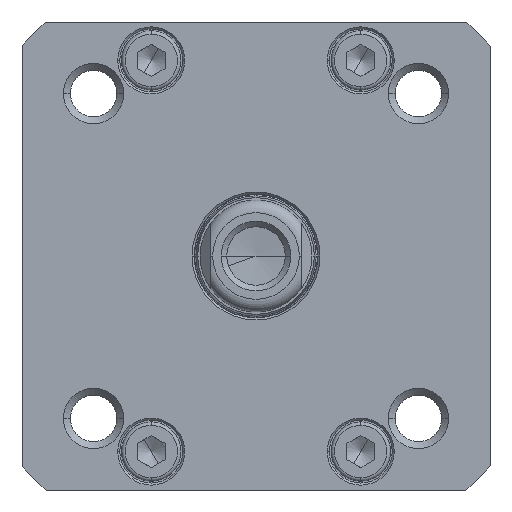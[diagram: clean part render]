
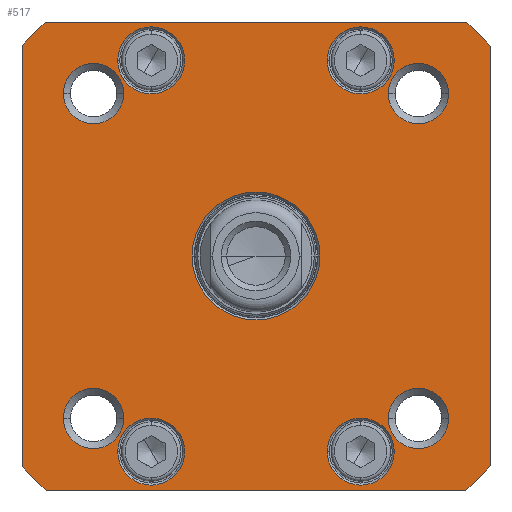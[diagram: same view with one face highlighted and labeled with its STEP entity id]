
A CAD part, front view. The second image highlights one B-rep face of the part: STEP entity #517.
In plain terms, the highlighted planar face has unit normal (0, -1, 0).
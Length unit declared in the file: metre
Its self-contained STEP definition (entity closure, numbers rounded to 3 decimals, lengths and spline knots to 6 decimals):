
#517=ADVANCED_FACE('',(#923,#924,#925,#926,#927,#928,#929,#930,#931,#932),#933,.T.);
#923=FACE_OUTER_BOUND('',#1640,.T.);
#924=FACE_BOUND('',#1641,.T.);
#925=FACE_BOUND('',#1642,.T.);
#926=FACE_BOUND('',#1643,.T.);
#927=FACE_BOUND('',#1644,.T.);
#928=FACE_BOUND('',#1645,.T.);
#929=FACE_BOUND('',#1646,.T.);
#930=FACE_BOUND('',#1647,.T.);
#931=FACE_BOUND('',#1648,.T.);
#932=FACE_BOUND('',#1649,.T.);
#933=PLANE('',#1650);
#1640=EDGE_LOOP('',(#2914,#2915,#2916,#2917,#2918,#2919,#2920,#2921));
#1641=EDGE_LOOP('',(#2922,#2923));
#1642=EDGE_LOOP('',(#2924,#2925));
#1643=EDGE_LOOP('',(#2926,#2927));
#1644=EDGE_LOOP('',(#2928,#2929));
#1645=EDGE_LOOP('',(#2930,#2931));
#1646=EDGE_LOOP('',(#2932,#2933));
#1647=EDGE_LOOP('',(#2934,#2935));
#1648=EDGE_LOOP('',(#2936,#2937));
#1649=EDGE_LOOP('',(#2938,#2939));
#1650=AXIS2_PLACEMENT_3D('',#2940,#2941,#2942);
#2914=ORIENTED_EDGE('',*,*,#5014,.F.);
#2915=ORIENTED_EDGE('',*,*,#5015,.F.);
#2916=ORIENTED_EDGE('',*,*,#5016,.F.);
#2917=ORIENTED_EDGE('',*,*,#5017,.F.);
#2918=ORIENTED_EDGE('',*,*,#5018,.F.);
#2919=ORIENTED_EDGE('',*,*,#5019,.F.);
#2920=ORIENTED_EDGE('',*,*,#5020,.F.);
#2921=ORIENTED_EDGE('',*,*,#5021,.F.);
#2922=ORIENTED_EDGE('',*,*,#5022,.F.);
#2923=ORIENTED_EDGE('',*,*,#4900,.F.);
#2924=ORIENTED_EDGE('',*,*,#5023,.F.);
#2925=ORIENTED_EDGE('',*,*,#4876,.F.);
#2926=ORIENTED_EDGE('',*,*,#5024,.F.);
#2927=ORIENTED_EDGE('',*,*,#4852,.F.);
#2928=ORIENTED_EDGE('',*,*,#5025,.F.);
#2929=ORIENTED_EDGE('',*,*,#4836,.F.);
#2930=ORIENTED_EDGE('',*,*,#5026,.F.);
#2931=ORIENTED_EDGE('',*,*,#4821,.F.);
#2932=ORIENTED_EDGE('',*,*,#5027,.F.);
#2933=ORIENTED_EDGE('',*,*,#4828,.F.);
#2934=ORIENTED_EDGE('',*,*,#5028,.F.);
#2935=ORIENTED_EDGE('',*,*,#4844,.F.);
#2936=ORIENTED_EDGE('',*,*,#5029,.F.);
#2937=ORIENTED_EDGE('',*,*,#4864,.F.);
#2938=ORIENTED_EDGE('',*,*,#5030,.F.);
#2939=ORIENTED_EDGE('',*,*,#4888,.F.);
#2940=CARTESIAN_POINT('',(0.,-0.087375,0.));
#2941=DIRECTION('',(0.0,-1.0,0.0));
#2942=DIRECTION('',(0.0,0.0,-1.0));
#4821=EDGE_CURVE('',#6065,#6067,#6068,.T.);
#4828=EDGE_CURVE('',#6078,#6080,#6081,.T.);
#4836=EDGE_CURVE('',#6092,#6094,#6095,.T.);
#4844=EDGE_CURVE('',#6106,#6108,#6109,.T.);
#4852=EDGE_CURVE('',#6120,#6122,#6123,.T.);
#4864=EDGE_CURVE('',#6140,#6142,#6143,.T.);
#4876=EDGE_CURVE('',#6160,#6162,#6163,.T.);
#4888=EDGE_CURVE('',#6180,#6182,#6183,.T.);
#4900=EDGE_CURVE('',#6200,#6202,#6203,.T.);
#5014=EDGE_CURVE('',#6415,#6416,#6417,.T.);
#5015=EDGE_CURVE('',#6418,#6415,#6419,.T.);
#5016=EDGE_CURVE('',#6420,#6418,#6421,.T.);
#5017=EDGE_CURVE('',#6422,#6420,#6423,.T.);
#5018=EDGE_CURVE('',#6424,#6422,#6425,.T.);
#5019=EDGE_CURVE('',#6426,#6424,#6427,.T.);
#5020=EDGE_CURVE('',#6428,#6426,#6429,.T.);
#5021=EDGE_CURVE('',#6416,#6428,#6430,.T.);
#5022=EDGE_CURVE('',#6202,#6200,#6431,.T.);
#5023=EDGE_CURVE('',#6162,#6160,#6432,.T.);
#5024=EDGE_CURVE('',#6122,#6120,#6433,.T.);
#5025=EDGE_CURVE('',#6094,#6092,#6434,.T.);
#5026=EDGE_CURVE('',#6067,#6065,#6435,.T.);
#5027=EDGE_CURVE('',#6080,#6078,#6436,.T.);
#5028=EDGE_CURVE('',#6108,#6106,#6437,.T.);
#5029=EDGE_CURVE('',#6142,#6140,#6438,.T.);
#5030=EDGE_CURVE('',#6182,#6180,#6439,.T.);
#6065=VERTEX_POINT('',#7617);
#6067=VERTEX_POINT('',#7620);
#6068=CIRCLE('',#7621,0.00915);
#6078=VERTEX_POINT('',#7634);
#6080=VERTEX_POINT('',#7637);
#6081=CIRCLE('',#7638,0.0048);
#6092=VERTEX_POINT('',#7652);
#6094=VERTEX_POINT('',#7655);
#6095=CIRCLE('',#7656,0.0048);
#6106=VERTEX_POINT('',#7670);
#6108=VERTEX_POINT('',#7673);
#6109=CIRCLE('',#7674,0.0048);
#6120=VERTEX_POINT('',#7688);
#6122=VERTEX_POINT('',#7691);
#6123=CIRCLE('',#7692,0.0048);
#6140=VERTEX_POINT('',#7714);
#6142=VERTEX_POINT('',#7717);
#6143=CIRCLE('',#7718,0.004324);
#6160=VERTEX_POINT('',#7740);
#6162=VERTEX_POINT('',#7743);
#6163=CIRCLE('',#7744,0.004324);
#6180=VERTEX_POINT('',#7766);
#6182=VERTEX_POINT('',#7769);
#6183=CIRCLE('',#7770,0.004324);
#6200=VERTEX_POINT('',#7792);
#6202=VERTEX_POINT('',#7795);
#6203=CIRCLE('',#7796,0.004324);
#6415=VERTEX_POINT('',#8321);
#6416=VERTEX_POINT('',#8322);
#6417=CIRCLE('',#8323,0.045);
#6418=VERTEX_POINT('',#8324);
#6419=LINE('',#8325,#8326);
#6420=VERTEX_POINT('',#8327);
#6421=CIRCLE('',#8328,0.045);
#6422=VERTEX_POINT('',#8329);
#6423=LINE('',#8330,#8331);
#6424=VERTEX_POINT('',#8332);
#6425=CIRCLE('',#8333,0.045);
#6426=VERTEX_POINT('',#8334);
#6427=LINE('',#8335,#8336);
#6428=VERTEX_POINT('',#8337);
#6429=CIRCLE('',#8338,0.045);
#6430=LINE('',#8339,#8340);
#6431=CIRCLE('',#8341,0.004324);
#6432=CIRCLE('',#8342,0.004324);
#6433=CIRCLE('',#8343,0.0048);
#6434=CIRCLE('',#8344,0.0048);
#6435=CIRCLE('',#8345,0.00915);
#6436=CIRCLE('',#8346,0.0048);
#6437=CIRCLE('',#8347,0.0048);
#6438=CIRCLE('',#8348,0.004324);
#6439=CIRCLE('',#8349,0.004324);
#7617=CARTESIAN_POINT('',(0.00915,-0.087375,0.));
#7620=CARTESIAN_POINT('',(-0.00915,-0.087375,0.));
#7621=AXIS2_PLACEMENT_3D('',#10131,#10132,#10133);
#7634=CARTESIAN_POINT('',(0.0102,-0.087375,-0.028));
#7637=CARTESIAN_POINT('',(0.0198,-0.087375,-0.028));
#7638=AXIS2_PLACEMENT_3D('',#10144,#10145,#10146);
#7652=CARTESIAN_POINT('',(-0.0198,-0.087375,-0.028));
#7655=CARTESIAN_POINT('',(-0.0102,-0.087375,-0.028));
#7656=AXIS2_PLACEMENT_3D('',#10160,#10161,#10162);
#7670=CARTESIAN_POINT('',(0.0102,-0.087375,0.028));
#7673=CARTESIAN_POINT('',(0.0198,-0.087375,0.028));
#7674=AXIS2_PLACEMENT_3D('',#10176,#10177,#10178);
#7688=CARTESIAN_POINT('',(-0.0198,-0.087375,0.028));
#7691=CARTESIAN_POINT('',(-0.0102,-0.087375,0.028));
#7692=AXIS2_PLACEMENT_3D('',#10192,#10193,#10194);
#7714=CARTESIAN_POINT('',(0.018927,-0.087375,0.02325));
#7717=CARTESIAN_POINT('',(0.027574,-0.087375,0.02325));
#7718=AXIS2_PLACEMENT_3D('',#10216,#10217,#10218);
#7740=CARTESIAN_POINT('',(-0.027574,-0.087375,0.02325));
#7743=CARTESIAN_POINT('',(-0.018927,-0.087375,0.02325));
#7744=AXIS2_PLACEMENT_3D('',#10240,#10241,#10242);
#7766=CARTESIAN_POINT('',(-0.027574,-0.087375,-0.02325));
#7769=CARTESIAN_POINT('',(-0.018927,-0.087375,-0.02325));
#7770=AXIS2_PLACEMENT_3D('',#10264,#10265,#10266);
#7792=CARTESIAN_POINT('',(0.018927,-0.087375,-0.02325));
#7795=CARTESIAN_POINT('',(0.027574,-0.087375,-0.02325));
#7796=AXIS2_PLACEMENT_3D('',#10288,#10289,#10290);
#8321=CARTESIAN_POINT('',(-0.030046,-0.087375,-0.0335));
#8322=CARTESIAN_POINT('',(-0.0335,-0.087375,-0.030046));
#8323=AXIS2_PLACEMENT_3D('',#10463,#10464,#10465);
#8324=CARTESIAN_POINT('',(0.030046,-0.087375,-0.0335));
#8325=CARTESIAN_POINT('',(0.030046,-0.087375,-0.0335));
#8326=VECTOR('',#10466,0.060092);
#8327=CARTESIAN_POINT('',(0.0335,-0.087375,-0.030046));
#8328=AXIS2_PLACEMENT_3D('',#10467,#10468,#10469);
#8329=CARTESIAN_POINT('',(0.0335,-0.087375,0.030046));
#8330=CARTESIAN_POINT('',(0.0335,-0.087375,0.030046));
#8331=VECTOR('',#10470,0.060092);
#8332=CARTESIAN_POINT('',(0.030046,-0.087375,0.0335));
#8333=AXIS2_PLACEMENT_3D('',#10471,#10472,#10473);
#8334=CARTESIAN_POINT('',(-0.030046,-0.087375,0.0335));
#8335=CARTESIAN_POINT('',(-0.030046,-0.087375,0.0335));
#8336=VECTOR('',#10474,0.060092);
#8337=CARTESIAN_POINT('',(-0.0335,-0.087375,0.030046));
#8338=AXIS2_PLACEMENT_3D('',#10475,#10476,#10477);
#8339=CARTESIAN_POINT('',(-0.0335,-0.087375,-0.030046));
#8340=VECTOR('',#10478,0.060092);
#8341=AXIS2_PLACEMENT_3D('',#10479,#10480,#10481);
#8342=AXIS2_PLACEMENT_3D('',#10482,#10483,#10484);
#8343=AXIS2_PLACEMENT_3D('',#10485,#10486,#10487);
#8344=AXIS2_PLACEMENT_3D('',#10488,#10489,#10490);
#8345=AXIS2_PLACEMENT_3D('',#10491,#10492,#10493);
#8346=AXIS2_PLACEMENT_3D('',#10494,#10495,#10496);
#8347=AXIS2_PLACEMENT_3D('',#10497,#10498,#10499);
#8348=AXIS2_PLACEMENT_3D('',#10500,#10501,#10502);
#8349=AXIS2_PLACEMENT_3D('',#10503,#10504,#10505);
#10131=CARTESIAN_POINT('',(0.0,-0.087375,0.0));
#10132=DIRECTION('',(0.0,-1.0,0.0));
#10133=DIRECTION('',(1.0,0.0,0.0));
#10144=CARTESIAN_POINT('',(0.015,-0.087375,-0.028));
#10145=DIRECTION('',(0.0,-1.0,0.0));
#10146=DIRECTION('',(-1.0,0.0,0.0));
#10160=CARTESIAN_POINT('',(-0.015,-0.087375,-0.028));
#10161=DIRECTION('',(0.0,-1.0,0.0));
#10162=DIRECTION('',(-1.0,0.0,0.0));
#10176=CARTESIAN_POINT('',(0.015,-0.087375,0.028));
#10177=DIRECTION('',(0.0,-1.0,0.0));
#10178=DIRECTION('',(-1.0,0.0,0.0));
#10192=CARTESIAN_POINT('',(-0.015,-0.087375,0.028));
#10193=DIRECTION('',(0.0,-1.0,0.0));
#10194=DIRECTION('',(-1.0,0.0,0.0));
#10216=CARTESIAN_POINT('',(0.02325,-0.087375,0.02325));
#10217=DIRECTION('',(0.0,-1.0,0.0));
#10218=DIRECTION('',(-1.0,0.0,0.0));
#10240=CARTESIAN_POINT('',(-0.02325,-0.087375,0.02325));
#10241=DIRECTION('',(0.0,-1.0,0.0));
#10242=DIRECTION('',(-1.0,0.0,0.0));
#10264=CARTESIAN_POINT('',(-0.02325,-0.087375,-0.02325));
#10265=DIRECTION('',(0.0,-1.0,0.0));
#10266=DIRECTION('',(-1.0,0.0,0.0));
#10288=CARTESIAN_POINT('',(0.02325,-0.087375,-0.02325));
#10289=DIRECTION('',(0.0,-1.0,0.0));
#10290=DIRECTION('',(-1.0,0.0,0.0));
#10463=CARTESIAN_POINT('',(0.0,-0.087375,0.0));
#10464=DIRECTION('',(0.0,1.0,0.0));
#10465=DIRECTION('',(-0.744,0.0,-0.668));
#10466=DIRECTION('',(-1.0,0.0,0.0));
#10467=CARTESIAN_POINT('',(0.0,-0.087375,0.0));
#10468=DIRECTION('',(0.0,1.0,0.0));
#10469=DIRECTION('',(0.668,0.0,-0.744));
#10470=DIRECTION('',(0.0,0.0,-1.0));
#10471=CARTESIAN_POINT('',(0.0,-0.087375,0.0));
#10472=DIRECTION('',(-0.0,1.0,0.0));
#10473=DIRECTION('',(0.744,0.0,0.668));
#10474=DIRECTION('',(1.0,0.0,0.0));
#10475=CARTESIAN_POINT('',(0.0,-0.087375,0.0));
#10476=DIRECTION('',(0.0,1.0,0.0));
#10477=DIRECTION('',(-0.668,0.0,0.744));
#10478=DIRECTION('',(0.0,0.0,1.0));
#10479=CARTESIAN_POINT('',(0.02325,-0.087375,-0.02325));
#10480=DIRECTION('',(0.0,-1.0,0.0));
#10481=DIRECTION('',(-1.0,0.0,0.0));
#10482=CARTESIAN_POINT('',(-0.02325,-0.087375,0.02325));
#10483=DIRECTION('',(0.0,-1.0,0.0));
#10484=DIRECTION('',(-1.0,0.0,0.0));
#10485=CARTESIAN_POINT('',(-0.015,-0.087375,0.028));
#10486=DIRECTION('',(0.0,-1.0,0.0));
#10487=DIRECTION('',(-1.0,0.0,0.0));
#10488=CARTESIAN_POINT('',(-0.015,-0.087375,-0.028));
#10489=DIRECTION('',(0.0,-1.0,0.0));
#10490=DIRECTION('',(-1.0,0.0,0.0));
#10491=CARTESIAN_POINT('',(0.0,-0.087375,0.0));
#10492=DIRECTION('',(0.0,-1.0,0.0));
#10493=DIRECTION('',(1.0,0.0,0.0));
#10494=CARTESIAN_POINT('',(0.015,-0.087375,-0.028));
#10495=DIRECTION('',(0.0,-1.0,0.0));
#10496=DIRECTION('',(-1.0,0.0,0.0));
#10497=CARTESIAN_POINT('',(0.015,-0.087375,0.028));
#10498=DIRECTION('',(0.0,-1.0,0.0));
#10499=DIRECTION('',(-1.0,0.0,0.0));
#10500=CARTESIAN_POINT('',(0.02325,-0.087375,0.02325));
#10501=DIRECTION('',(0.0,-1.0,0.0));
#10502=DIRECTION('',(-1.0,0.0,0.0));
#10503=CARTESIAN_POINT('',(-0.02325,-0.087375,-0.02325));
#10504=DIRECTION('',(0.0,-1.0,0.0));
#10505=DIRECTION('',(-1.0,0.0,0.0));
